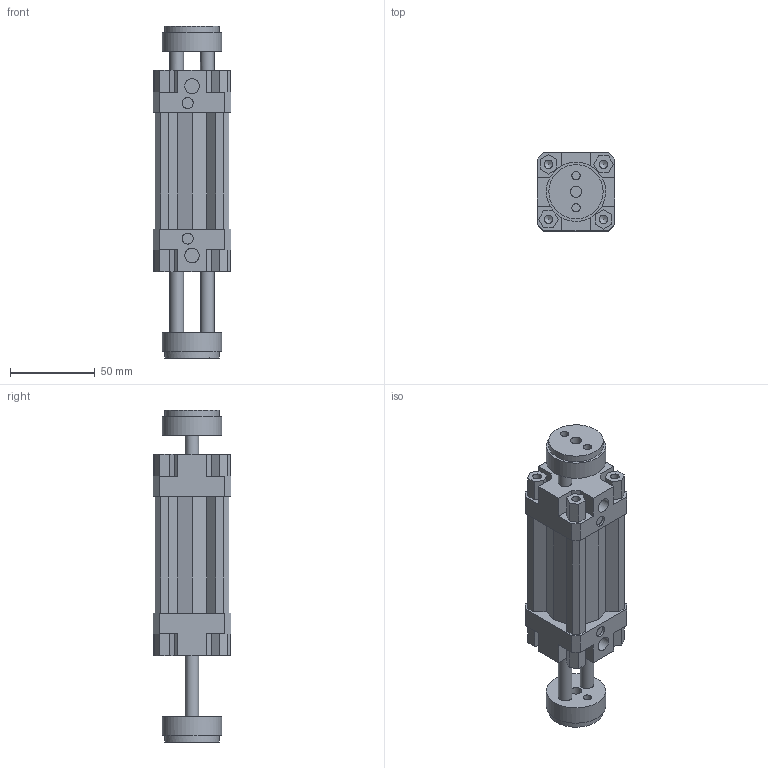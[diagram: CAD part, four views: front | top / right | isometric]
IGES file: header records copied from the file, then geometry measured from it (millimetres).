
Global section: file name: 132#_032_0025_06; native system: Autodesk Inventor 2014; preprocessor: unknown; author: A. Manieri; date: 20161006.154616; units: millimetre
Bounding box: 46 x 46 x 196 mm (x, y, z)
Volume: 202205 mm3; surface area: 64280.8 mm2
Topology: 2 solids, 2 shells, 190 faces, 518 edges, 354 vertices
Faces by surface type: bspline 190
